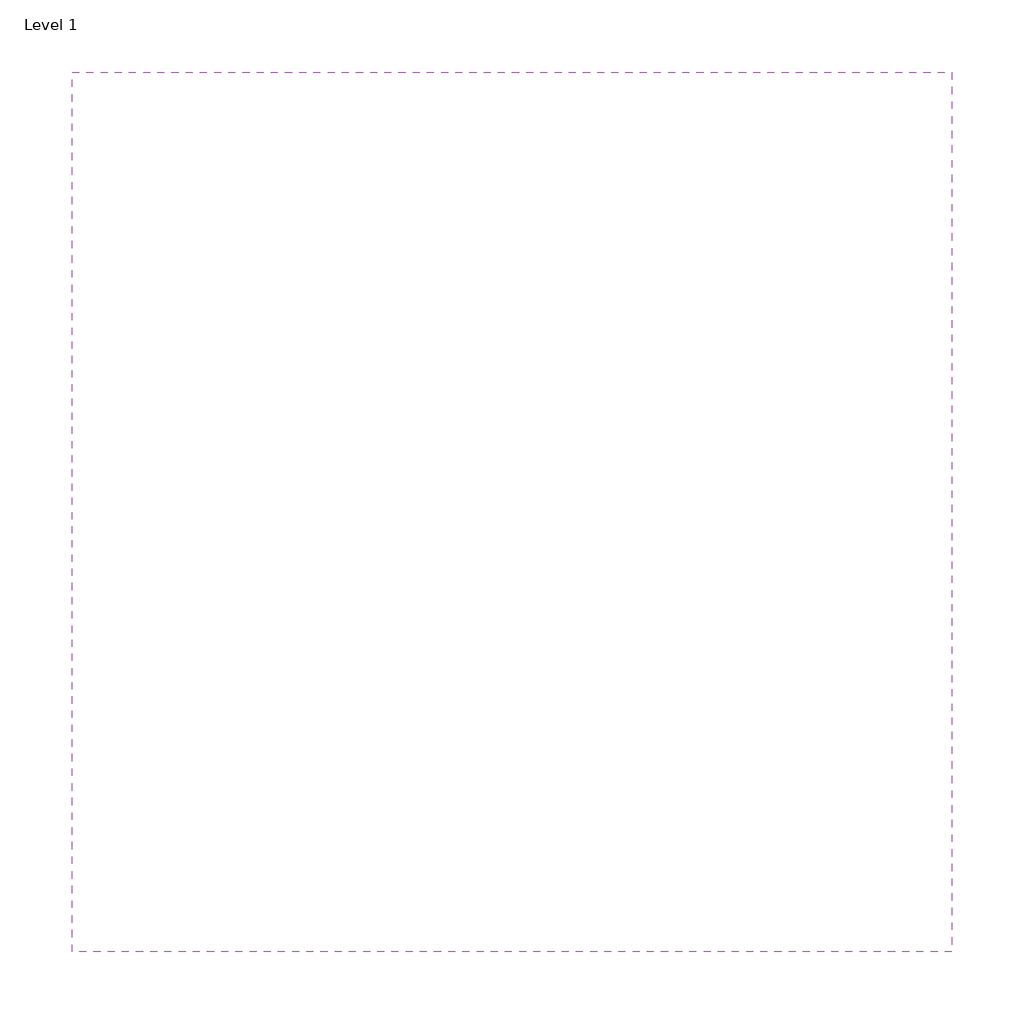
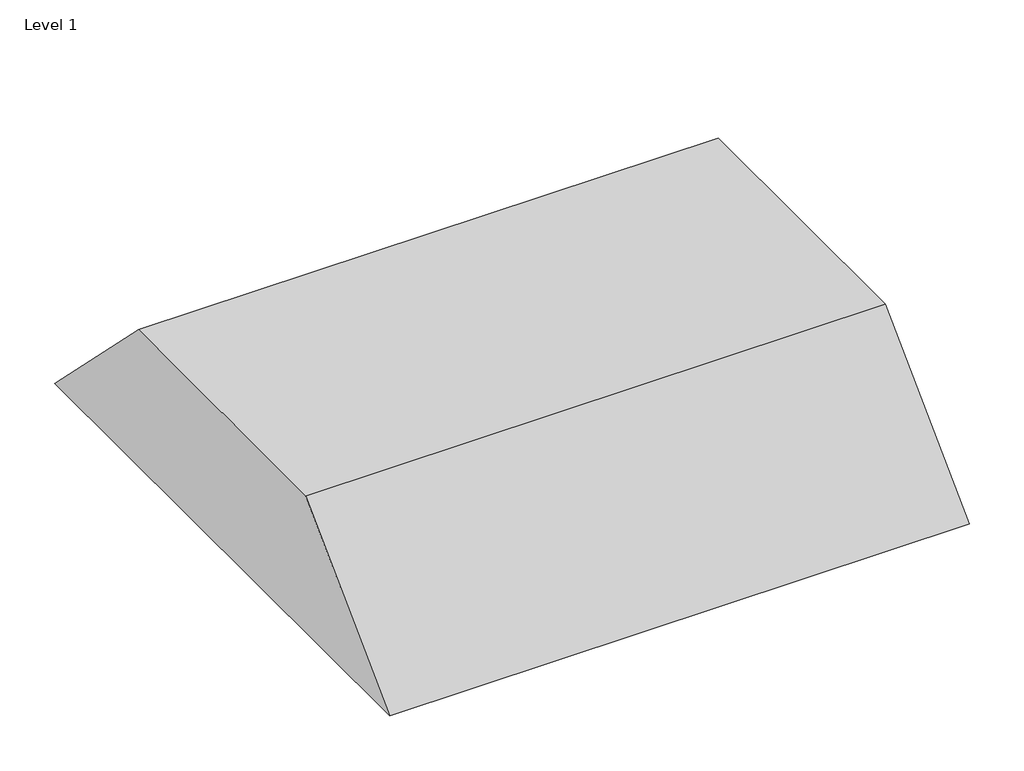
# One storey: 1 light fixture.
"""IFC4 building model written with IfcOpenShell, lengths in millimetres."""

from ifc_helpers import new_model, si_unit, origin, place, context, project, spatial, transform, mapped, element, save
from components import plain_recessed_lighting_fixture_2x2_120_2107ce2d

model = new_model("IFC4")

# Units and contexts
model_context = context("Model", 3, world=origin())
ifc_project = project(units=[si_unit("LENGTHUNIT", "METRE", prefix="MILLI")], contexts=[model_context])

# Site, building, storey
site = spatial("IfcSite", under=ifc_project)
building = spatial("IfcBuilding", under=site)
storey = spatial("IfcBuildingStorey", under=building, Name="Level 1", Elevation=0.0)

# Light fixture
placement = place(None, origin())
plain_recessed_lighting_fixture_2x2_120_shape = plain_recessed_lighting_fixture_2x2_120_2107ce2d(model_context)
element("IfcLightFixture", 1, ObjectType="Plain Recessed Lighting Fixture : 2x2 - 120", at=placement, inside=storey, context=model_context, shape_type="MappedRepresentation", body=[
    mapped(plain_recessed_lighting_fixture_2x2_120_shape, transform((-26538.986811, 8337.2338778, 2514.6), x_axis=(1.0, 0.0, 0.0), y_axis=(0.0, -1.0, 0.0), z_axis=(0.0, 0.0, -1.0))),
])

save(model, "model.ifc")
